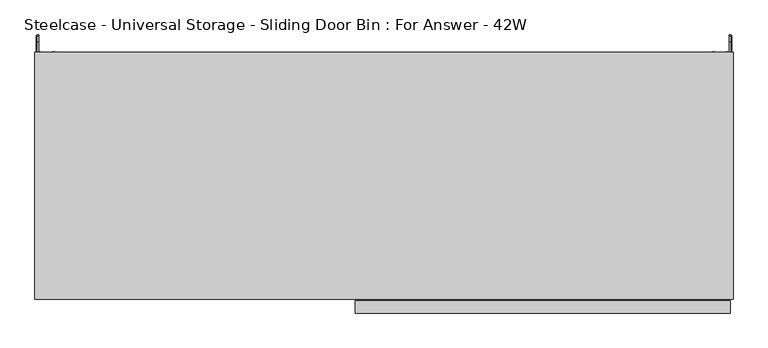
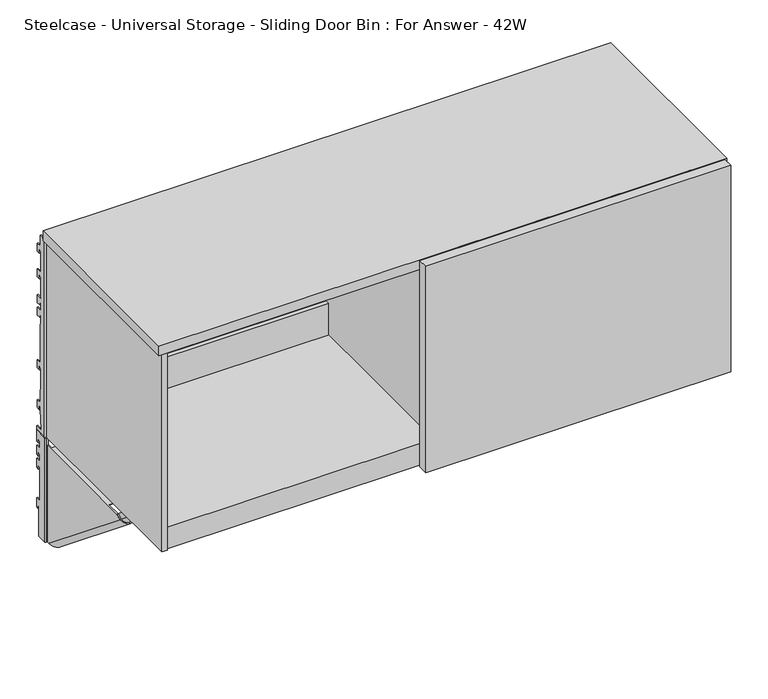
"""IFC4 building model written with IfcOpenShell, lengths in millimetres: furniture geometry, Steelcase - Universal Storage - Sliding Door Bin : For Answer - 42W."""

from ifc_helpers import new_model, si_unit, frame, origin, place, context, project, spatial, polyline, circle_curve, ellipse_curve, outline, extrude, faceted_brep, source, transform, mapped, element, save
from ifc_brep_helpers import plane_surface, cylinder_surface, revolved_surface, advanced_brep


def steelcase_universal_storage_sliding_door_bin_for_answer_42w_8bf37d0d(model_context):
    return source(origin(), model_context, "Body", "SolidModel", [
        advanced_brep(
        [(4.0894, 24.9864881, 1265.2629), (4.0894, 1.1327479, 1265.2629), (4.0894, 1.1203386, 1058.2783), (4.0894, 17.3410881, 1058.2783), (4.0894, 17.3410881, 1118.4254822), (4.0894, 21.4050888, 1118.4254822), (4.0894, 21.4050888, 1112.0755064), (4.0894, 24.9864881, 1112.0755064), (4.0894, 24.9864881, 1130.3381271), (4.0894, 14.7756879, 1130.3381271), (4.0894, 14.7756879, 1196.9115345), (4.0894, 18.8396885, 1196.9115345), (4.0894, 18.8396885, 1190.561486), (4.0894, 24.9864881, 1190.561486), (4.0894, 24.9864881, 1208.8241068), (4.0894, 14.7756879, 1208.8241068), (4.0894, 14.7756879, 1223.0735277), (4.0894, 18.8396885, 1223.0735277), (4.0894, 18.8396885, 1216.7234793), (4.0894, 24.9864881, 1216.7234793), (4.0894, 24.9864881, 1234.9861), (4.0894, 14.7756879, 1234.9861), (4.0894, 14.7756879, 1249.2355209), (4.0894, 18.8396885, 1249.2355209), (4.0894, 18.8396885, 1242.8854725), (4.0894, 24.9864881, 1242.8854725), (2.1844, 24.9864881, 1265.2629), (2.1844, 24.9864881, 1242.8854725), (2.1844, 18.8396885, 1242.8854725), (2.1844, 18.8396885, 1249.2355209), (2.1844, 14.7756879, 1249.2355209), (2.1844, 14.7756879, 1234.9861), (2.1844, 24.9864881, 1234.9861), (2.1844, 24.9864881, 1216.7234793), (2.1844, 18.8396885, 1216.7234793), (2.1844, 18.8396885, 1223.0735277), (2.1844, 14.7756879, 1223.0735277), (2.1844, 14.7756879, 1208.8241068), (2.1844, 24.9864881, 1208.8241068), (2.1844, 24.9864881, 1190.561486), (2.1844, 18.8396885, 1190.561486), (2.1844, 18.8396885, 1196.9115345), (2.1844, 14.7756879, 1196.9115345), (2.1844, 14.7756879, 1130.3381271), (2.1844, 24.9864881, 1130.3381271), (2.1844, 24.9864881, 1112.0755064), (2.1844, 21.4050888, 1112.0755064), (2.1844, 21.4050888, 1118.4254822), (2.1844, 17.3410881, 1118.4254822), (2.1844, 17.3410881, 1058.2783), (2.1844, -0.7757522, 1058.2783), (2.1844, -0.7757522, 1265.2629), (4.4891598, -3.080512, 1265.2629), (8.1026, -3.080512, 1265.2629), (8.1026, -1.7838863, 1265.2629), (7.4942256, -1.175512, 1265.2629), (6.3852506, -1.175512, 1265.2629), (6.3852506, -1.175512, 1058.2783), (7.4942256, -1.175512, 1058.2783), (8.1026, -1.7838863, 1058.2783), (8.1026, -3.080512, 1058.2783), (4.4891598, -3.080512, 1058.2783)],
        [
            (0, 1),
            (1, 2),
            (2, 3),
            (3, 4),
            (4, 5),
            (5, 6),
            (6, 7),
            (7, 8),
            (8, 9),
            (9, 10),
            (10, 11),
            (11, 12),
            (12, 13),
            (13, 14),
            (14, 15),
            (15, 16),
            (16, 17),
            (17, 18),
            (18, 19),
            (19, 20),
            (20, 21),
            (21, 22),
            (22, 23),
            (23, 24),
            (24, 25),
            (25, 0),
            (26, 27),
            (27, 28),
            (28, 29),
            (29, 30),
            (30, 31),
            (31, 32),
            (32, 33),
            (33, 34),
            (34, 35),
            (35, 36),
            (36, 37),
            (37, 38),
            (38, 39),
            (39, 40),
            (40, 41),
            (41, 42),
            (42, 43),
            (43, 44),
            (44, 45),
            (45, 46),
            (46, 47),
            (47, 48),
            (48, 49),
            (49, 50),
            (50, 51),
            (51, 26),
            (0, 26),
            (51, 52, circle_curve(frame((4.4891598, -0.7757522, 1265.2629), z_axis=(0.0, 0.0, 1.0), x_axis=(1.0, 0.0, 0.0)), 2.3047598)),
            (52, 53),
            (53, 54),
            (54, 55, circle_curve(frame((7.4942256, -1.7838863, 1265.2629), z_axis=(0.0, 0.0, 1.0), x_axis=(1.0, 0.0, 0.0)), 0.6083744)),
            (55, 56),
            (56, 1, circle_curve(frame((6.3852506, 1.1203386, 1265.2629), z_axis=(0.0, 0.0, -1.0), x_axis=(1.0, 0.0, 0.0)), 2.2958506)),
            (2, 57, circle_curve(frame((6.3852506, 1.1203386, 1058.2783), z_axis=(0.0, 0.0, 1.0), x_axis=(1.0, 0.0, 0.0)), 2.2958506)),
            (57, 58),
            (58, 59, circle_curve(frame((7.4942256, -1.7838863, 1058.2783), z_axis=(0.0, 0.0, -1.0), x_axis=(1.0, 0.0, 0.0)), 0.6083744)),
            (59, 60),
            (60, 61),
            (61, 50, circle_curve(frame((4.4891598, -0.7757522, 1058.2783), z_axis=(0.0, 0.0, -1.0), x_axis=(1.0, 0.0, 0.0)), 2.3047598)),
            (49, 3),
            (48, 4),
            (47, 5),
            (46, 6),
            (45, 7),
            (44, 8),
            (43, 9),
            (42, 10),
            (41, 11),
            (40, 12),
            (39, 13),
            (38, 14),
            (37, 15),
            (36, 16),
            (35, 17),
            (34, 18),
            (33, 19),
            (32, 20),
            (31, 21),
            (30, 22),
            (29, 23),
            (28, 24),
            (27, 25),
            (61, 52),
            (60, 53),
            (59, 54),
            (58, 55),
            (57, 56),
        ],
        [
            plane_surface(frame((4.0894, 1.241405, 1265.2629), z_axis=(1.0, 0.0, 0.0), x_axis=(0.0, -1.0, 0.0))),
            plane_surface(frame((2.1844, 1.241405, 1265.2629), z_axis=(-1.0, 0.0, 0.0), x_axis=(0.0, 1.0, 0.0))),
            plane_surface(frame((4.0894, 24.9864881, 1265.2629), z_axis=(0.0, 0.0, 1.0), x_axis=(-1.0, 0.0, 0.0))),
            plane_surface(frame((4.0894, 1.1327479, 1058.2783), z_axis=(0.0, 0.0, -1.0), x_axis=(-1.0, 0.0, 0.0))),
            plane_surface(frame((4.0894, 17.3410881, 1058.2783), z_axis=(0.0, 1.0, 0.0), x_axis=(-1.0, 0.0, 0.0))),
            plane_surface(frame((4.0894, 17.3410881, 1118.4254822), z_axis=(0.0, 0.0, -1.0), x_axis=(-1.0, 0.0, 0.0))),
            plane_surface(frame((4.0894, 21.4050888, 1118.4254822), z_axis=(0.0, -1.0, 0.0), x_axis=(-1.0, 0.0, 0.0))),
            plane_surface(frame((4.0894, 21.4050888, 1112.0755064), z_axis=(0.0, 0.0, -1.0), x_axis=(-1.0, 0.0, 0.0))),
            plane_surface(frame((4.0894, 24.9864881, 1112.0755064), z_axis=(0.0, 1.0, 0.0), x_axis=(-1.0, 0.0, 0.0))),
            plane_surface(frame((4.0894, 24.9864881, 1130.3381271), z_axis=(0.0, 0.0, 1.0), x_axis=(-1.0, 0.0, 0.0))),
            plane_surface(frame((4.0894, 14.7756879, 1130.3381271), z_axis=(0.0, 1.0, 0.0), x_axis=(-1.0, 0.0, 0.0))),
            plane_surface(frame((4.0894, 14.7756879, 1196.9115345), z_axis=(0.0, 0.0, -1.0), x_axis=(-1.0, 0.0, 0.0))),
            plane_surface(frame((4.0894, 18.8396885, 1196.9115345), z_axis=(0.0, -1.0, 0.0), x_axis=(-1.0, 0.0, 0.0))),
            plane_surface(frame((4.0894, 18.8396885, 1190.561486), z_axis=(0.0, 0.0, -1.0), x_axis=(-1.0, 0.0, 0.0))),
            plane_surface(frame((4.0894, 24.9864881, 1190.561486), z_axis=(0.0, 1.0, 0.0), x_axis=(-1.0, 0.0, 0.0))),
            plane_surface(frame((4.0894, 24.9864881, 1208.8241068), z_axis=(0.0, 0.0, 1.0), x_axis=(-1.0, 0.0, 0.0))),
            plane_surface(frame((4.0894, 14.7756879, 1208.8241068), z_axis=(0.0, 1.0, 0.0), x_axis=(-1.0, 0.0, 0.0))),
            plane_surface(frame((4.0894, 14.7756879, 1223.0735277), z_axis=(0.0, 0.0, -1.0), x_axis=(-1.0, 0.0, 0.0))),
            plane_surface(frame((4.0894, 18.8396885, 1223.0735277), z_axis=(0.0, -1.0, 0.0), x_axis=(-1.0, 0.0, 0.0))),
            plane_surface(frame((4.0894, 18.8396885, 1216.7234793), z_axis=(0.0, 0.0, -1.0), x_axis=(-1.0, 0.0, 0.0))),
            plane_surface(frame((4.0894, 24.9864881, 1216.7234793), z_axis=(0.0, 1.0, 0.0), x_axis=(-1.0, 0.0, 0.0))),
            plane_surface(frame((4.0894, 24.9864881, 1234.9861), z_axis=(0.0, 0.0, 1.0), x_axis=(-1.0, 0.0, 0.0))),
            plane_surface(frame((4.0894, 14.7756879, 1234.9861), z_axis=(0.0, 1.0, 0.0), x_axis=(-1.0, 0.0, 0.0))),
            plane_surface(frame((4.0894, 14.7756879, 1249.2355209), z_axis=(0.0, 0.0, -1.0), x_axis=(-1.0, 0.0, 0.0))),
            plane_surface(frame((4.0894, 18.8396885, 1249.2355209), z_axis=(0.0, -1.0, 0.0), x_axis=(-1.0, 0.0, 0.0))),
            plane_surface(frame((4.0894, 18.8396885, 1242.8854725), z_axis=(0.0, 0.0, -1.0), x_axis=(-1.0, 0.0, 0.0))),
            plane_surface(frame((4.0894, 24.9864881, 1242.8854725), z_axis=(0.0, 1.0, 0.0), x_axis=(-1.0, 0.0, 0.0))),
            cylinder_surface(frame((4.4891598, -0.7757522, 1058.2783), z_axis=(0.0, 0.0, 1.0), x_axis=(1.0, 0.0, 0.0)), 2.3047598),
            plane_surface(frame((4.4891598, -3.080512, 1265.2629), z_axis=(0.0, -1.0, 0.0), x_axis=(0.0, 0.0, -1.0))),
            plane_surface(frame((8.1026, -3.080512, 1265.2629), z_axis=(1.0, 0.0, 0.0), x_axis=(0.0, 0.0, -1.0))),
            cylinder_surface(frame((7.4942256, -1.7838863, 1058.2783), z_axis=(0.0, 0.0, 1.0), x_axis=(1.0, 0.0, 0.0)), 0.6083744),
            plane_surface(frame((7.4942256, -1.175512, 1265.2629), z_axis=(0.0, 1.0, 0.0), x_axis=(0.0, 0.0, -1.0))),
            revolved_surface(polyline([(8.6811012, 1.1203386, 1058.2783), (8.6811012, 1.1203386, 1265.2629)]), (6.3852506, 1.1203386, 1058.2783), (0.0, 0.0, -1.0)),
        ],
        [
            (0, [[1, 2, 3, 4, 5, 6, 7, 8, 9, 10, 11, 12, 13, 14, 15, 16, 17, 18, 19, 20, 21, 22, 23, 24, 25, 26]]),
            (1, [[27, 28, 29, 30, 31, 32, 33, 34, 35, 36, 37, 38, 39, 40, 41, 42, 43, 44, 45, 46, 47, 48, 49, 50, 51, 52]]),
            (2, [[-1, 53, -52, 54, 55, 56, 57, 58, 59]]),
            (3, [[-3, 60, 61, 62, 63, 64, 65, -50, 66]]),
            (4, [[-4, -66, -49, 67]]),
            (5, [[-5, -67, -48, 68]]),
            (6, [[-6, -68, -47, 69]]),
            (7, [[-7, -69, -46, 70]]),
            (8, [[-8, -70, -45, 71]]),
            (9, [[-9, -71, -44, 72]]),
            (10, [[-10, -72, -43, 73]]),
            (11, [[-11, -73, -42, 74]]),
            (12, [[-12, -74, -41, 75]]),
            (13, [[-13, -75, -40, 76]]),
            (14, [[-14, -76, -39, 77]]),
            (15, [[-15, -77, -38, 78]]),
            (16, [[-16, -78, -37, 79]]),
            (17, [[-17, -79, -36, 80]]),
            (18, [[-18, -80, -35, 81]]),
            (19, [[-19, -81, -34, 82]]),
            (20, [[-20, -82, -33, 83]]),
            (21, [[-21, -83, -32, 84]]),
            (22, [[-22, -84, -31, 85]]),
            (23, [[-23, -85, -30, 86]]),
            (24, [[-24, -86, -29, 87]]),
            (25, [[-25, -87, -28, 88]]),
            (26, [[-26, -88, -27, -53]]),
            (27, [[-54, -51, -65, 89]]),
            (28, [[-55, -89, -64, 90]]),
            (29, [[-56, -90, -63, 91]]),
            (30, [[-57, -91, -62, 92]]),
            (31, [[-58, -92, -61, 93]]),
            (32, [[-59, -93, -60, -2]]),
        ],
    ),
        advanced_brep(
        [(1062.7106, 24.9864881, 1265.2629), (1062.7106, 24.9864881, 1242.8854725), (1062.7106, 18.8396885, 1242.8854725), (1062.7106, 18.8396885, 1249.2355209), (1062.7106, 14.7756879, 1249.2355209), (1062.7106, 14.7756879, 1234.9861), (1062.7106, 24.9864881, 1234.9861), (1062.7106, 24.9864881, 1216.7234793), (1062.7106, 18.8396885, 1216.7234793), (1062.7106, 18.8396885, 1223.0735277), (1062.7106, 14.7756879, 1223.0735277), (1062.7106, 14.7756879, 1208.8241068), (1062.7106, 24.9864881, 1208.8241068), (1062.7106, 24.9864881, 1190.561486), (1062.7106, 18.8396885, 1190.561486), (1062.7106, 18.8396885, 1196.9115345), (1062.7106, 14.7756879, 1196.9115345), (1062.7106, 14.7756879, 1130.3381271), (1062.7106, 24.9864881, 1130.3381271), (1062.7106, 24.9864881, 1112.0755064), (1062.7106, 21.4050888, 1112.0755064), (1062.7106, 21.4050888, 1118.4254822), (1062.7106, 17.3410881, 1118.4254822), (1062.7106, 17.3410881, 1058.2783), (1062.7106, 1.1327479, 1058.2783), (1062.7106, 1.1203386, 1265.2629), (1064.6156, -0.7757522, 1265.2629), (1064.6156, -0.7757522, 1058.2783), (1064.6156, 17.3410881, 1058.2783), (1064.6156, 17.3410881, 1118.4254822), (1064.6156, 21.4050888, 1118.4254822), (1064.6156, 21.4050888, 1112.0755064), (1064.6156, 24.9864881, 1112.0755064), (1064.6156, 24.9864881, 1130.3381271), (1064.6156, 14.7756879, 1130.3381271), (1064.6156, 14.7756879, 1196.9115345), (1064.6156, 18.8396885, 1196.9115345), (1064.6156, 18.8396885, 1190.561486), (1064.6156, 24.9864881, 1190.561486), (1064.6156, 24.9864881, 1208.8241068), (1064.6156, 14.7756879, 1208.8241068), (1064.6156, 14.7756879, 1223.0735277), (1064.6156, 18.8396885, 1223.0735277), (1064.6156, 18.8396885, 1216.7234793), (1064.6156, 24.9864881, 1216.7234793), (1064.6156, 24.9864881, 1234.9861), (1064.6156, 14.7756879, 1234.9861), (1064.6156, 14.7756879, 1249.2355209), (1064.6156, 18.8396885, 1249.2355209), (1064.6156, 18.8396885, 1242.8854725), (1064.6156, 24.9864881, 1242.8854725), (1064.6156, 24.9864881, 1265.2629), (1062.3108402, -3.080512, 1058.2783), (1058.9006, -3.080512, 1058.2783), (1058.9006, -1.7838863, 1058.2783), (1059.5089744, -1.175512, 1058.2783), (1060.4147494, -1.175512, 1058.2783), (1060.4147494, -1.175512, 1265.2629), (1059.5089744, -1.175512, 1265.2629), (1058.9006, -1.7838863, 1265.2629), (1058.9006, -3.080512, 1265.2629), (1062.3108402, -3.080512, 1265.2629)],
        [
            (0, 1),
            (1, 2),
            (2, 3),
            (3, 4),
            (4, 5),
            (5, 6),
            (6, 7),
            (7, 8),
            (8, 9),
            (9, 10),
            (10, 11),
            (11, 12),
            (12, 13),
            (13, 14),
            (14, 15),
            (15, 16),
            (16, 17),
            (17, 18),
            (18, 19),
            (19, 20),
            (20, 21),
            (21, 22),
            (22, 23),
            (23, 24),
            (24, 25),
            (25, 0),
            (26, 27),
            (27, 28),
            (28, 29),
            (29, 30),
            (30, 31),
            (31, 32),
            (32, 33),
            (33, 34),
            (34, 35),
            (35, 36),
            (36, 37),
            (37, 38),
            (38, 39),
            (39, 40),
            (40, 41),
            (41, 42),
            (42, 43),
            (43, 44),
            (44, 45),
            (45, 46),
            (46, 47),
            (47, 48),
            (48, 49),
            (49, 50),
            (50, 51),
            (51, 26),
            (0, 51),
            (50, 1),
            (49, 2),
            (48, 3),
            (47, 4),
            (46, 5),
            (45, 6),
            (44, 7),
            (43, 8),
            (42, 9),
            (41, 10),
            (40, 11),
            (39, 12),
            (38, 13),
            (37, 14),
            (36, 15),
            (35, 16),
            (34, 17),
            (33, 18),
            (32, 19),
            (31, 20),
            (30, 21),
            (29, 22),
            (28, 23),
            (27, 52, circle_curve(frame((1062.3108402, -0.7757522, 1058.2783), z_axis=(0.0, 0.0, -1.0), x_axis=(0.0, 1.0, 0.0)), 2.3047598)),
            (52, 53),
            (53, 54),
            (54, 55, circle_curve(frame((1059.5089744, -1.7838863, 1058.2783), z_axis=(0.0, 0.0, -1.0), x_axis=(0.0, 1.0, 0.0)), 0.6083744)),
            (55, 56),
            (56, 24, circle_curve(frame((1060.4147494, 1.1203386, 1058.2783), z_axis=(0.0, 0.0, 1.0), x_axis=(0.0, 1.0, 0.0)), 2.2958506)),
            (25, 57, circle_curve(frame((1060.4147494, 1.1203386, 1265.2629), z_axis=(0.0, 0.0, -1.0), x_axis=(0.0, 1.0, 0.0)), 2.2958506)),
            (57, 58),
            (58, 59, circle_curve(frame((1059.5089744, -1.7838863, 1265.2629), z_axis=(0.0, 0.0, 1.0), x_axis=(0.0, 1.0, 0.0)), 0.6083744)),
            (59, 60),
            (60, 61),
            (61, 26, circle_curve(frame((1062.3108402, -0.7757522, 1265.2629), z_axis=(0.0, 0.0, 1.0), x_axis=(0.0, 1.0, 0.0)), 2.3047598)),
            (56, 57),
            (55, 58),
            (54, 59),
            (53, 60),
            (52, 61),
        ],
        [
            plane_surface(frame((1062.7106, 24.9864881, 1265.2629), z_axis=(-1.0, 0.0, 0.0), x_axis=(0.0, 0.0, -1.0))),
            plane_surface(frame((1064.6156, 24.9864881, 1265.2629), z_axis=(1.0, 0.0, 0.0), x_axis=(0.0, 0.0, 1.0))),
            plane_surface(frame((1062.7106, 24.9864881, 1265.2629), z_axis=(0.0, 1.0, 0.0), x_axis=(1.0, 0.0, 0.0))),
            plane_surface(frame((1062.7106, 24.9864881, 1242.8854725), z_axis=(0.0, 0.0, -1.0), x_axis=(1.0, 0.0, 0.0))),
            plane_surface(frame((1062.7106, 18.8396885, 1242.8854725), z_axis=(0.0, -1.0, 0.0), x_axis=(1.0, 0.0, 0.0))),
            plane_surface(frame((1062.7106, 18.8396885, 1249.2355209), z_axis=(0.0, 0.0, -1.0), x_axis=(1.0, 0.0, 0.0))),
            plane_surface(frame((1062.7106, 14.7756879, 1249.2355209), z_axis=(0.0, 1.0, 0.0), x_axis=(1.0, 0.0, 0.0))),
            plane_surface(frame((1062.7106, 14.7756879, 1234.9861), z_axis=(0.0, 0.0, 1.0), x_axis=(1.0, 0.0, 0.0))),
            plane_surface(frame((1062.7106, 24.9864881, 1234.9861), z_axis=(0.0, 1.0, 0.0), x_axis=(1.0, 0.0, 0.0))),
            plane_surface(frame((1062.7106, 24.9864881, 1216.7234793), z_axis=(0.0, 0.0, -1.0), x_axis=(1.0, 0.0, 0.0))),
            plane_surface(frame((1062.7106, 18.8396885, 1216.7234793), z_axis=(0.0, -1.0, 0.0), x_axis=(1.0, 0.0, 0.0))),
            plane_surface(frame((1062.7106, 18.8396885, 1223.0735277), z_axis=(0.0, 0.0, -1.0), x_axis=(1.0, 0.0, 0.0))),
            plane_surface(frame((1062.7106, 14.7756879, 1223.0735277), z_axis=(0.0, 1.0, 0.0), x_axis=(1.0, 0.0, 0.0))),
            plane_surface(frame((1062.7106, 14.7756879, 1208.8241068), z_axis=(0.0, 0.0, 1.0), x_axis=(1.0, 0.0, 0.0))),
            plane_surface(frame((1062.7106, 24.9864881, 1208.8241068), z_axis=(0.0, 1.0, 0.0), x_axis=(1.0, 0.0, 0.0))),
            plane_surface(frame((1062.7106, 24.9864881, 1190.561486), z_axis=(0.0, 0.0, -1.0), x_axis=(1.0, 0.0, 0.0))),
            plane_surface(frame((1062.7106, 18.8396885, 1190.561486), z_axis=(0.0, -1.0, 0.0), x_axis=(1.0, 0.0, 0.0))),
            plane_surface(frame((1062.7106, 18.8396885, 1196.9115345), z_axis=(0.0, 0.0, -1.0), x_axis=(1.0, 0.0, 0.0))),
            plane_surface(frame((1062.7106, 14.7756879, 1196.9115345), z_axis=(0.0, 1.0, 0.0), x_axis=(1.0, 0.0, 0.0))),
            plane_surface(frame((1062.7106, 14.7756879, 1130.3381271), z_axis=(0.0, 0.0, 1.0), x_axis=(1.0, 0.0, 0.0))),
            plane_surface(frame((1062.7106, 24.9864881, 1130.3381271), z_axis=(0.0, 1.0, 0.0), x_axis=(1.0, 0.0, 0.0))),
            plane_surface(frame((1062.7106, 24.9864881, 1112.0755064), z_axis=(0.0, 0.0, -1.0), x_axis=(1.0, 0.0, 0.0))),
            plane_surface(frame((1062.7106, 21.4050888, 1112.0755064), z_axis=(0.0, -1.0, 0.0), x_axis=(1.0, 0.0, 0.0))),
            plane_surface(frame((1062.7106, 21.4050888, 1118.4254822), z_axis=(0.0, 0.0, -1.0), x_axis=(1.0, 0.0, 0.0))),
            plane_surface(frame((1062.7106, 17.3410881, 1118.4254822), z_axis=(0.0, 1.0, 0.0), x_axis=(1.0, 0.0, 0.0))),
            plane_surface(frame((1062.7106, 17.3410881, 1058.2783), z_axis=(0.0, 0.0, -1.0), x_axis=(1.0, 0.0, 0.0))),
            plane_surface(frame((1062.7106, 1.1327479, 1265.2629), z_axis=(0.0, 0.0, 1.0), x_axis=(1.0, 0.0, 0.0))),
            revolved_surface(polyline([(1060.4147494, 3.4161892, 1058.2783), (1060.4147494, 3.4161892, 1265.2629)]), (1060.4147494, 1.1203386, 1058.2783), (0.0, 0.0, -1.0)),
            plane_surface(frame((1060.4147494, -1.175512, 1265.2629), z_axis=(3.8388970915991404e-11, 1.0, 0.0), x_axis=(0.0, 0.0, -1.0))),
            cylinder_surface(frame((1059.5089744, -1.7838863, 1058.2783), z_axis=(0.0, 0.0, 1.0), x_axis=(0.0, 1.0, 0.0)), 0.6083744),
            plane_surface(frame((1058.9006, -1.7838863, 1265.2629), z_axis=(-1.0, 0.0, 0.0), x_axis=(0.0, 0.0, -1.0))),
            plane_surface(frame((1058.9006, -3.080512, 1265.2629), z_axis=(6.7372088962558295e-12, -1.0, 0.0), x_axis=(0.0, 0.0, -1.0))),
            cylinder_surface(frame((1062.3108402, -0.7757522, 1058.2783), z_axis=(0.0, 0.0, 1.0), x_axis=(0.0, 1.0, 0.0)), 2.3047598),
        ],
        [
            (0, [[1, 2, 3, 4, 5, 6, 7, 8, 9, 10, 11, 12, 13, 14, 15, 16, 17, 18, 19, 20, 21, 22, 23, 24, 25, 26]]),
            (1, [[27, 28, 29, 30, 31, 32, 33, 34, 35, 36, 37, 38, 39, 40, 41, 42, 43, 44, 45, 46, 47, 48, 49, 50, 51, 52]]),
            (2, [[-1, 53, -51, 54]]),
            (3, [[-2, -54, -50, 55]]),
            (4, [[-3, -55, -49, 56]]),
            (5, [[-4, -56, -48, 57]]),
            (6, [[-5, -57, -47, 58]]),
            (7, [[-6, -58, -46, 59]]),
            (8, [[-7, -59, -45, 60]]),
            (9, [[-8, -60, -44, 61]]),
            (10, [[-9, -61, -43, 62]]),
            (11, [[-10, -62, -42, 63]]),
            (12, [[-11, -63, -41, 64]]),
            (13, [[-12, -64, -40, 65]]),
            (14, [[-13, -65, -39, 66]]),
            (15, [[-14, -66, -38, 67]]),
            (16, [[-15, -67, -37, 68]]),
            (17, [[-16, -68, -36, 69]]),
            (18, [[-17, -69, -35, 70]]),
            (19, [[-18, -70, -34, 71]]),
            (20, [[-19, -71, -33, 72]]),
            (21, [[-20, -72, -32, 73]]),
            (22, [[-21, -73, -31, 74]]),
            (23, [[-22, -74, -30, 75]]),
            (24, [[-23, -75, -29, 76]]),
            (25, [[-24, -76, -28, 77, 78, 79, 80, 81, 82]]),
            (26, [[-26, 83, 84, 85, 86, 87, 88, -52, -53]]),
            (27, [[-83, -25, -82, 89]]),
            (28, [[-84, -89, -81, 90]]),
            (29, [[-85, -90, -80, 91]]),
            (30, [[-86, -91, -79, 92]]),
            (31, [[-87, -92, -78, 93]]),
            (32, [[-88, -93, -77, -27]]),
        ],
    ),
        advanced_brep(
        [(1037.7424, -230.0833372, 1251.1405), (1037.7424, 1.1327479, 1063.9053738), (1035.6342, 1.1327479, 1063.9053738), (1035.6342, -230.0833372, 1251.1405), (1035.6342, 1.1327479, 1058.2783), (1035.6342, -7.7654502, 1058.2783), (1035.6342, -240.6555763, 1246.8690381), (1058.9006, -7.7654502, 1058.2783), (1058.9006, -240.6555763, 1246.8690381), (1058.9006, 1.1327479, 1058.2783), (1058.9006, 1.1327479, 1063.9053738), (1058.9006, -3.080512, 1067.317205), (1058.9006, -3.080512, 1251.1405), (1058.9006, -230.0833372, 1251.1405), (1056.7924009, 1.1327479, 1063.9053738), (1056.7924009, -3.080512, 1067.317205), (1056.7924009, -7.7654502, 1058.2783), (1056.7924009, -240.6555763, 1246.8690381), (1056.7924009, -230.0833372, 1251.1405), (1056.7924009, -200.311512, 1251.1405), (1056.7924009, -200.311512, 1250.3023163), (1056.7924009, -14.0787123, 1250.3023163), (1056.7924009, -14.0787123, 1251.1405), (1056.7924009, -3.080512, 1251.1405), (1056.7924009, 1.1327479, 1058.2783), (1037.7424, -7.7654502, 1058.2783), (1037.7424, -240.6555763, 1246.8690381), (1037.7424, 1.1327479, 1058.2783), (1027.8617978, -200.311512, 1251.1405), (1027.8617978, -200.311512, 1269.5555016), (1027.0236, -200.311512, 1269.5555016), (1027.0236, -200.311512, 1250.3023163), (1027.0236, -82.5825138, 1269.5555016), (1027.8617978, -82.5825138, 1269.5555016), (1027.8617978, -82.5825138, 1251.1405), (1027.0236, -82.5825138, 1251.1405), (1027.0236, -14.0787123, 1251.1405), (1027.0236, -14.0787123, 1250.3023163)],
        [
            (0, 1),
            (1, 2),
            (2, 3),
            (3, 0),
            (2, 4),
            (4, 5),
            (5, 6),
            (6, 3),
            (5, 7, ellipse_curve(frame((1047.2674, -7.7654502, 1058.2783), z_axis=(0.0, 0.0, 1.0), x_axis=(0.0, -1.0, 0.0)), 18.4853359, 11.6332)),
            (7, 8),
            (8, 6, ellipse_curve(frame((1047.2674, -240.6555763, 1246.8690381), z_axis=(0.0, 0.374606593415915, -0.9271838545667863), x_axis=(0.0, -0.9271838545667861, -0.3746065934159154)), 13.3008659, 11.6332)),
            (7, 9),
            (9, 10),
            (10, 11),
            (11, 12),
            (12, 13),
            (13, 8),
            (10, 14),
            (14, 15),
            (15, 11),
            (16, 17),
            (17, 18),
            (18, 19),
            (19, 20),
            (20, 21),
            (21, 22),
            (22, 23),
            (23, 15),
            (14, 24),
            (24, 16),
            (16, 25, ellipse_curve(frame((1047.2674005, -7.7654502, 1058.2783), z_axis=(0.0, 0.0, -1.0), x_axis=(0.0, 1.0, 0.0)), 15.135374, 9.5250005)),
            (25, 26),
            (26, 17, ellipse_curve(frame((1047.2674005, -240.6555763, 1246.8690381), z_axis=(0.0, -0.374606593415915, 0.9271838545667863), x_axis=(0.0, 0.9271838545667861, 0.3746065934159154)), 10.8904475, 9.5250005)),
            (0, 26),
            (25, 27),
            (27, 1),
            (13, 18),
            (24, 9),
            (4, 27),
            (28, 29),
            (29, 30),
            (30, 31),
            (31, 20),
            (19, 28),
            (32, 33),
            (33, 34),
            (34, 35),
            (35, 32),
            (35, 36),
            (36, 37),
            (37, 31),
            (30, 32),
            (28, 34),
            (33, 29),
            (36, 22),
            (21, 37),
            (12, 23),
        ],
        [
            plane_surface(frame((1037.7424, -241.2702093, 1260.199452), z_axis=(0.0, 0.6293204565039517, 0.7771459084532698), x_axis=(0.0, 0.7771459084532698, -0.6293204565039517))),
            plane_surface(frame((1035.6342, -241.2702093, 1260.199452), z_axis=(-1.0000000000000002, 0.0, 0.0), x_axis=(0.0, 0.7771459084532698, -0.6293204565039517))),
            cylinder_surface(frame((1047.2674, 5.728998, 1047.3507094), z_axis=(0.0, -0.7771459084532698, 0.6293204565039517), x_axis=(0.0, 0.6293204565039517, 0.7771459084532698)), 11.6332),
            plane_surface(frame((1058.9006, -247.5463438, 1252.4490726), z_axis=(1.0000000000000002, 0.0, 0.0), x_axis=(0.0, 0.7771459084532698, -0.6293204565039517))),
            plane_surface(frame((1058.9006, -241.2702093, 1260.199452), z_axis=(0.0, 0.6293204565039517, 0.7771459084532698), x_axis=(0.0, 0.7771459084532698, -0.6293204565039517))),
            plane_surface(frame((1056.7924009, -241.2702093, 1260.199452), z_axis=(-1.0000000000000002, 0.0, 0.0), x_axis=(0.0, 0.7771459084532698, -0.6293204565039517))),
            revolved_surface(polyline([(1047.2674005, 7.3699238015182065, 1058.2783000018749), (1047.2674005, -238.76446812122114, 1257.5940349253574)]), (1047.2674005, 5.728998, 1047.3507094), (0.0, 0.7771459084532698, -0.6293204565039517)),
            plane_surface(frame((1037.7424, -247.5463438, 1252.4490726), z_axis=(1.0000000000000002, 0.0, 0.0), x_axis=(0.0, 0.7771459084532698, -0.6293204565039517))),
            plane_surface(frame((1066.8, -257.2236519, 1240.1751011), z_axis=(0.0, -0.374606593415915, 0.9271838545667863), x_axis=(-1.0, 0.0, 0.0))),
            plane_surface(frame((1066.8, 1.1327479, 1058.2783), z_axis=(0.0, 0.0, -1.0), x_axis=(-1.0, 0.0, 0.0))),
            plane_surface(frame((1066.8, 1.1327479, 1070.9783), z_axis=(0.0, 1.0, 0.0), x_axis=(-1.0, 0.0, 0.0))),
            plane_surface(frame((1027.0236, -200.311512, 1269.5555016), z_axis=(0.0, -1.0, 0.0), x_axis=(0.0, 0.0, -1.0))),
            plane_surface(frame((1027.0236, -82.5825138, 1269.5555016), z_axis=(0.0, 1.0, 0.0), x_axis=(0.0, 0.0, 1.0))),
            plane_surface(frame((1027.0236, -200.311512, 1269.5555016), z_axis=(-1.0, 0.0, 0.0), x_axis=(0.0, 1.0, 0.0))),
            plane_surface(frame((1027.8617978, -200.311512, 1251.1405), z_axis=(1.0, 0.0, 0.0), x_axis=(0.0, 1.0, 0.0))),
            plane_surface(frame((1027.8617978, -200.311512, 1269.5555016), z_axis=(0.0, 0.0, 1.0), x_axis=(0.0, 1.0, 0.0))),
            plane_surface(frame((1027.0236, -14.0787123, 1251.1405), z_axis=(0.0, 1.0, 0.0), x_axis=(0.0, 0.0, 1.0))),
            plane_surface(frame((1027.0236, -200.311512, 1250.3023163), z_axis=(0.0, 0.0, -1.0), x_axis=(0.0, 1.0, 0.0))),
            plane_surface(frame((1058.9006, -200.311512, 1251.1405), z_axis=(0.0, 0.0, 1.0), x_axis=(0.0, 1.0, 0.0))),
            plane_surface(frame((1058.9006, -3.080512, 1067.317205), z_axis=(0.0, 1.0, 0.0), x_axis=(-1.0, 0.0, 0.0))),
        ],
        [
            (0, [[1, 2, 3, 4]]),
            (1, [[-3, 5, 6, 7, 8]]),
            (2, [[-7, 9, 10, 11]]),
            (3, [[-10, 12, 13, 14, 15, 16, 17]]),
            (4, [[18, 19, 20, -14]]),
            (5, [[21, 22, 23, 24, 25, 26, 27, 28, -19, 29, 30]]),
            (6, [[-21, 31, 32, 33]]),
            (7, [[-1, 34, -32, 35, 36]]),
            (8, [[-4, -8, -11, -17, 37, -22, -33, -34]]),
            (9, [[38, -12, -9, -6, 39, -35, -31, -30]]),
            (10, [[-38, -29, -18, -13]]),
            (10, [[-39, -5, -2, -36]]),
            (11, [[40, 41, 42, 43, -24, 44]]),
            (12, [[45, 46, 47, 48]]),
            (13, [[-48, 49, 50, 51, -42, 52]]),
            (14, [[-40, 53, -46, 54]]),
            (15, [[-41, -54, -45, -52]]),
            (16, [[-50, 55, -26, 56]]),
            (17, [[-51, -56, -25, -43]]),
            (18, [[57, -27, -55, -49, -47, -53, -44, -23, -37, -16]]),
            (19, [[-15, -20, -28, -57]]),
        ],
    ),
        advanced_brep(
        [(8.1026, -3.080512, 1067.317205), (8.1026, -3.080512, 1251.1405), (8.1026, -14.0787123, 1251.1405), (8.1026, -14.0787123, 1250.3023163), (8.1026, -200.311512, 1250.3023163), (8.1026, -200.311512, 1251.1405), (8.1026, -230.0833372, 1251.1405), (8.1026, -240.6555763, 1246.8690381), (8.1026, -7.7654502, 1058.2783), (8.1026, 1.1327479, 1058.2783), (8.1026, 1.1327479, 1063.9053738), (5.9944, -3.080512, 1251.1405), (5.9944, -3.080512, 1067.317205), (5.9944, 1.1327479, 1063.9053738), (5.9944, 1.1327479, 1058.2783), (5.9944, -7.7654502, 1058.2783), (5.9944, -240.6555763, 1246.8690381), (5.9944, -230.0833372, 1251.1405), (39.5732022, -200.311512, 1251.1405), (39.5732022, -82.5825138, 1251.1405), (40.4114, -82.5825138, 1251.1405), (40.4114, -14.0787123, 1251.1405), (29.2608, -7.7654502, 1058.2783), (29.2608, -240.6555763, 1246.8690381), (29.2608, 1.1327479, 1058.2783), (29.2608, 1.1327479, 1063.9053738), (29.2608, -230.0833372, 1251.1405), (27.1526009, 1.1327479, 1063.9053738), (27.1526009, -230.0833372, 1251.1405), (27.1526009, 1.1327479, 1058.2783), (27.1526009, -7.7654502, 1058.2783), (27.1526009, -240.6555763, 1246.8690381), (40.4114, -200.311512, 1250.3023163), (40.4114, -200.311512, 1269.5555016), (39.5732022, -200.311512, 1269.5555016), (40.4114, -14.0787123, 1250.3023163), (40.4114, -82.5825138, 1269.5555016), (39.5732022, -82.5825138, 1269.5555016)],
        [
            (0, 1),
            (1, 2),
            (2, 3),
            (3, 4),
            (4, 5),
            (5, 6),
            (6, 7),
            (7, 8),
            (8, 9),
            (9, 10),
            (10, 0),
            (11, 12),
            (12, 13),
            (13, 14),
            (14, 15),
            (15, 16),
            (16, 17),
            (17, 11),
            (17, 6),
            (5, 18),
            (18, 19),
            (19, 20),
            (20, 21),
            (21, 2),
            (1, 11),
            (0, 12),
            (10, 13),
            (15, 22, ellipse_curve(frame((17.6276, -7.7654502, 1058.2783), z_axis=(0.0, 0.0, 1.0), x_axis=(0.0, -1.0, 0.0)), 18.4853359, 11.6332)),
            (22, 23),
            (23, 16, ellipse_curve(frame((17.6276, -240.6555763, 1246.8690381), z_axis=(0.0, 0.374606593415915, -0.9271838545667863), x_axis=(0.0, -0.9271838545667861, -0.3746065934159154)), 13.3008659, 11.6332)),
            (22, 24),
            (24, 25),
            (25, 26),
            (26, 23),
            (25, 27),
            (27, 28),
            (28, 26),
            (27, 29),
            (29, 30),
            (30, 31),
            (31, 28),
            (7, 31, ellipse_curve(frame((17.6276005, -240.6555763, 1246.8690381), z_axis=(0.0, -0.374606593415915, 0.9271838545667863), x_axis=(0.0, 0.9271838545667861, 0.3746065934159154)), 10.8904475, 9.5250005)),
            (30, 8, ellipse_curve(frame((17.6276005, -7.7654502, 1058.2783), z_axis=(0.0, 0.0, -1.0), x_axis=(0.0, 1.0, 0.0)), 15.135374, 9.5250005)),
            (14, 9),
            (29, 24),
            (4, 32),
            (32, 33),
            (33, 34),
            (34, 18),
            (21, 35),
            (35, 3),
            (35, 32),
            (20, 36),
            (36, 33),
            (19, 37),
            (37, 36),
            (37, 34),
        ],
        [
            plane_surface(frame((8.1026, -230.0833372, 1251.1405), z_axis=(1.0, 0.0, 0.0), x_axis=(0.0, -1.0, 0.0))),
            plane_surface(frame((5.9944, -230.0833372, 1251.1405), z_axis=(-1.0, 0.0, 0.0), x_axis=(0.0, 1.0, 0.0))),
            plane_surface(frame((8.1026, -3.080512, 1251.1405), z_axis=(0.0, 0.0, 1.0), x_axis=(-1.0, 0.0, 0.0))),
            plane_surface(frame((8.1026, -3.080512, 1067.317205), z_axis=(0.0, 1.0, 0.0), x_axis=(-1.0, 0.0, 0.0))),
            plane_surface(frame((8.1026, -241.2702093, 1260.199452), z_axis=(0.0, 0.6293204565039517, 0.7771459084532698), x_axis=(0.0, 0.7771459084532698, -0.6293204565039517))),
            cylinder_surface(frame((17.6276, 5.728998, 1047.3507094), z_axis=(0.0, -0.7771459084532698, 0.6293204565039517), x_axis=(1.0, 0.0, 0.0)), 11.6332),
            plane_surface(frame((29.2608, -247.5463438, 1252.4490726), z_axis=(1.0000000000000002, 0.0, 0.0), x_axis=(0.0, 0.7771459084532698, -0.6293204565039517))),
            plane_surface(frame((29.2608, -241.2702093, 1260.199452), z_axis=(0.0, 0.6293204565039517, 0.7771459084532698), x_axis=(0.0, 0.7771459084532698, -0.6293204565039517))),
            plane_surface(frame((27.1526009, -241.2702093, 1260.199452), z_axis=(-1.0000000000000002, 0.0, 0.0), x_axis=(0.0, 0.7771459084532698, -0.6293204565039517))),
            revolved_surface(polyline([(27.152601, 1.375646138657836, 1050.8759848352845), (27.152601, -244.75874578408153, 1250.1917197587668)]), (17.6276005, 5.728998, 1047.3507094), (0.0, 0.7771459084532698, -0.6293204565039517)),
            plane_surface(frame((1066.8, -257.2236519, 1240.1751011), z_axis=(0.0, -0.374606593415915, 0.9271838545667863), x_axis=(-1.0, 0.0, 0.0))),
            plane_surface(frame((1066.8, 1.1327479, 1058.2783), z_axis=(0.0, 0.0, -1.0), x_axis=(-1.0, 0.0, 0.0))),
            plane_surface(frame((1066.8, 1.1327479, 1070.9783), z_axis=(0.0, 1.0, 0.0), x_axis=(-1.0, 0.0, 0.0))),
            plane_surface(frame((10.5986151, -200.311512, 1251.1405), z_axis=(0.0, -1.0, 0.0), x_axis=(-1.0, 0.0, 0.0))),
            plane_surface(frame((10.5986151, -14.0787123, 1251.1405), z_axis=(0.0, 1.0, 0.0), x_axis=(1.0, 0.0, 0.0))),
            plane_surface(frame((8.1026, -200.311512, 1250.3023163), z_axis=(0.0, 0.0, -1.0), x_axis=(0.0, 1.0, 0.0))),
            plane_surface(frame((40.4114, -200.311512, 1250.3023163), z_axis=(1.0, 0.0, 0.0), x_axis=(0.0, 1.0, 0.0))),
            plane_surface(frame((38.1509305, -82.5825138, 1269.5555016), z_axis=(0.0, 1.0, 0.0), x_axis=(1.0, 0.0, 0.0))),
            plane_surface(frame((40.4114, -200.311512, 1269.5555016), z_axis=(0.0, 0.0, 1.0), x_axis=(0.0, 1.0, 0.0))),
            plane_surface(frame((39.5732022, -200.311512, 1269.5555016), z_axis=(-1.0, 0.0, 0.0), x_axis=(0.0, 1.0, 0.0))),
        ],
        [
            (0, [[1, 2, 3, 4, 5, 6, 7, 8, 9, 10, 11]]),
            (1, [[12, 13, 14, 15, 16, 17, 18]]),
            (2, [[-18, 19, -6, 20, 21, 22, 23, 24, -2, 25]]),
            (3, [[-1, 26, -12, -25]]),
            (4, [[-26, -11, 27, -13]]),
            (5, [[-16, 28, 29, 30]]),
            (6, [[-29, 31, 32, 33, 34]]),
            (7, [[-33, 35, 36, 37]]),
            (8, [[-36, 38, 39, 40, 41]]),
            (9, [[-8, 42, -40, 43]]),
            (10, [[-7, -19, -17, -30, -34, -37, -41, -42]]),
            (11, [[44, -9, -43, -39, 45, -31, -28, -15]]),
            (12, [[-44, -14, -27, -10]]),
            (12, [[-45, -38, -35, -32]]),
            (13, [[46, 47, 48, 49, -20, -5]]),
            (14, [[50, 51, -3, -24]]),
            (15, [[-46, -4, -51, 52]]),
            (16, [[-47, -52, -50, -23, 53, 54]]),
            (17, [[-53, -22, 55, 56]]),
            (18, [[-48, -54, -56, 57]]),
            (19, [[-49, -57, -55, -21]]),
        ],
    ),
        faceted_brep([(1047.8516023, -9.7789998, 1657.6929), (1047.8516023, -9.7789998, 1669.5546326), (1047.8516023, -10.6172003, 1669.5546326), (1047.8516023, -10.6172003, 1656.854681), (1047.8516023, -0.8382, 1656.854681), (1047.8516023, -0.8382266, 1657.6929), (17.0434001, -9.7789998, 1657.6929), (17.0434001, -0.8382, 1657.6929), (17.0434001, -0.8382011, 1656.854681), (17.0434001, -10.6172003, 1656.854681), (17.0434001, -10.6172003, 1669.5546326), (17.0434001, -9.7789998, 1669.5546326), (1050.4837557, -30.9238769, 1657.6929), (1051.3187599, -30.850824, 1657.6929), (1048.6930117, -0.8382, 1657.6929), (1062.7106, -0.8382, 1657.6929), (1062.7106, 0.1784978, 1657.6929), (2.1844, 0.1784978, 1657.6929), (2.1844, -0.8382, 1657.6929), (16.2019988, -0.8382, 1657.6929), (13.5762335, -30.850824, 1657.6929), (14.4176356, -30.850824, 1657.6929), (1062.7106, 0.1784978, 1265.2629), (1062.7106, -0.8382, 1265.2629), (1048.6930117, -0.8382, 1265.2629), (1051.3187599, -30.850824, 1265.2629), (1050.4837557, -30.9238769, 1265.2629), (1047.8516, -0.8382, 1265.2629), (17.0434002, -0.8382, 1265.2629), (14.4176356, -30.850824, 1265.2629), (13.5762335, -30.850824, 1265.2629), (16.2019988, -0.8382, 1265.2629), (2.1844, -0.8382, 1265.2629), (2.1844, 0.1784978, 1265.2629)], [[[0, 1, 2, 3, 4, 5]], [[6, 7, 8, 9, 10, 11]], [[1, 0, 6, 11]], [[2, 1, 11, 10]], [[3, 2, 10, 9]], [[4, 3, 9, 8]], [[0, 5, 12, 13, 14, 15, 16, 17, 18, 19, 20, 21, 7, 6]], [[22, 23, 24, 25, 26, 27, 28, 29, 30, 31, 32, 33]], [[17, 16, 22, 33]], [[18, 17, 33, 32]], [[19, 18, 32, 31]], [[20, 19, 31, 30]], [[21, 20, 30, 29]], [[7, 21, 29, 28, 8]], [[28, 27, 4, 8]], [[12, 5, 4, 27, 26]], [[13, 12, 26, 25]], [[14, 13, 25, 24]], [[15, 14, 24, 23]], [[16, 15, 23, 22]]]),
        faceted_brep([(1031.3415999, -61.4680004, 1273.7210903), (1031.3415999, -61.4680004, 1266.1011), (1031.3415999, -60.6298021, 1266.1011), (1031.3415999, -60.6298021, 1273.7210903), (33.5534002, -61.4680004, 1273.7210903), (33.5534002, -60.6298021, 1273.7210903), (33.5534002, -60.6298021, 1266.1011), (33.5534002, -61.468, 1266.1011), (17.0434001, -61.4680004, 1266.1011), (17.0434001, -61.4680004, 1265.2629), (1047.8516023, -61.4680004, 1265.2629), (1047.8516023, -61.4680004, 1266.1011), (1047.8516023, -0.8382, 1265.2629), (1047.8516023, -0.8382, 1266.1011), (17.0434001, -0.8382, 1266.1011), (17.0434001, -0.8382, 1265.2629)], [[[0, 1, 2, 3]], [[4, 5, 6, 7]], [[1, 0, 4, 7, 8, 9, 10, 11]], [[3, 2, 6, 5]], [[0, 3, 5, 4]], [[11, 10, 12, 13]], [[8, 14, 15, 9]], [[12, 10, 9, 15]], [[13, 12, 15, 14]], [[11, 13, 14, 8, 7, 6, 2, 1]]]),
        extrude(outline(polyline([(489.099143, -379.476), (1062.3703, -379.476), (1062.3703, -398.526), (489.099143, -398.526), (489.099143, -379.476)])), frame((0.0, 0.0, 1266.8226746), z_axis=(0.0, 0.0, 1.0), x_axis=(1.0, 0.0, 0.0)), (0.0, 0.0, 1.0), 409.5773254),
        faceted_brep([(1066.8, -377.213238, 1676.4), (0.0, -377.213238, 1676.4), (0.0, -377.213238, 1657.35), (516.636, -377.213238, 1657.35), (516.636, -377.213238, 1310.7072052), (550.164, -377.213238, 1310.7072052), (550.164, -377.213238, 1657.35), (552.8674273, -377.213238, 1657.35), (1066.8, -377.213238, 1657.35), (1066.8, 0.0, 1676.4), (1066.8, 0.0, 1657.35), (552.8674273, 0.0, 1657.35), (0.0, 0.0, 1657.35), (0.0, 0.0, 1676.4), (550.164, -27.0763996, 1657.35), (516.636, -27.0763996, 1657.35), (550.164, -27.0763996, 1310.7072052), (516.636, -27.0763996, 1310.7072052)], [[[0, 1, 2, 3, 4, 5, 6, 7, 8]], [[9, 10, 11, 12, 13]], [[1, 0, 9, 13]], [[2, 1, 13, 12]], [[8, 7, 11, 10]], [[0, 8, 10, 9]], [[12, 11, 7, 6, 14, 15, 3, 2]], [[14, 16, 17, 15]], [[16, 14, 6, 5]], [[17, 16, 5, 4]], [[15, 17, 4, 3]]]),
        faceted_brep([(15.875, -377.213238, 1657.0959457), (5.5118, -377.213238, 1657.0959457), (5.5118, -377.213238, 1265.428), (15.875, -377.213238, 1265.428), (15.875, 0.0, 1657.0959457), (15.875, 0.0, 1265.428), (5.5118, 0.0, 1265.428), (5.5118, 0.0, 1657.0959457)], [[[0, 1, 2, 3]], [[4, 5, 6, 7]], [[1, 0, 4, 7]], [[2, 1, 7, 6]], [[3, 2, 6, 5]], [[0, 3, 5, 4]]]),
        faceted_brep([(1065.6568665, -377.213238, 1657.0959457), (1050.925, -377.213238, 1657.0959457), (1050.925, -377.213238, 1265.428), (1065.6568665, -377.213238, 1265.428), (1065.6568665, 0.0, 1657.0959457), (1065.6568665, 0.0, 1265.428), (1050.925, 0.0, 1265.428), (1050.925, 0.0, 1657.0959457)], [[[0, 1, 2, 3]], [[4, 5, 6, 7]], [[1, 0, 4, 7]], [[2, 1, 7, 6]], [[3, 2, 6, 5]], [[0, 3, 5, 4]]]),
        extrude(outline(polyline([(0.0, 1657.096), (15.428165, 1657.096), (15.428165, 1635.9725192), (24.6737648, 1635.9725192), (24.6737648, 1620.2499324), (17.7141651, 1620.2499324), (17.7141651, 1627.4034202), (15.428165, 1627.4034202), (13.3707653, 1623.8398995), (13.3707653, 1584.7332049), (24.4959651, 1584.7332049), (24.4959651, 1569.0106181), (17.7141651, 1569.0106181), (17.7141651, 1576.1734076), (15.428165, 1576.1734076), (13.3707653, 1572.6099624), (13.3707653, 1533.4938907), (24.6737648, 1533.4938907), (24.6737648, 1517.7713038), (17.5768, 1517.7713038), (17.5768, 1524.9340934), (15.4248855, 1524.9340934), (13.3349998, 1521.3219111), (13.3349998, 1508.4166423), (24.6737648, 1508.4166423), (24.6737648, 1492.6940555), (17.5768, 1492.6940555), (17.5768, 1499.856845), (15.4205129, 1499.856845), (13.3933344, 1496.3530466), (13.3933344, 1483.6530466), (15.428165, 1479.2893385), (15.428165, 1403.8551467), (24.6737648, 1403.8551467), (24.6737648, 1388.1325599), (17.7141651, 1388.1325599), (17.7141651, 1395.2982562), (15.428165, 1395.2982562), (13.3306079, 1391.6651808), (13.3306079, 1353.5651808), (15.428165, 1349.9321054), (15.428165, 1325.1000701), (24.6737648, 1325.1000701), (24.6737648, 1309.3774833), (17.7141651, 1309.3774833), (17.7141651, 1316.5328605), (15.428165, 1316.5328605), (15.428165, 1303.5355433), (13.2046809, 1299.684356), (13.2046809, 1282.9679719), (11.2879653, 1282.9679719), (11.2879653, 1271.9303504), (26.4009645, 1271.9303504), (26.4009645, 1265.428), (0.0, 1265.428), (0.0, 1657.096)])), frame((1061.2882, 0.0, 0.0), z_axis=(1.0, 0.0, 0.0), x_axis=(0.0, 1.0, 0.0)), (0.0, 0.0, 1.0), 1.905),
        extrude(outline(polyline([(0.0, 1657.096), (15.428165, 1657.096), (15.428165, 1635.9725192), (24.6737648, 1635.9725192), (24.6737648, 1620.2499324), (17.7141651, 1620.2499324), (17.7141651, 1627.4034202), (15.428165, 1627.4034202), (13.3707653, 1623.8398995), (13.3707653, 1584.7332049), (24.4959651, 1584.7332049), (24.4959651, 1569.0106181), (17.7141651, 1569.0106181), (17.7141651, 1576.1734076), (15.428165, 1576.1734076), (13.3707653, 1572.6099624), (13.3707653, 1533.4938907), (24.6737648, 1533.4938907), (24.6737648, 1517.7713038), (17.5768, 1517.7713038), (17.5768, 1524.9340934), (15.4248855, 1524.9340934), (13.3349998, 1521.3219111), (13.3349998, 1508.4166423), (24.6737648, 1508.4166423), (24.6737648, 1492.6940555), (17.5768, 1492.6940555), (17.5768, 1499.856845), (15.4205129, 1499.856845), (13.3933344, 1496.3530466), (13.3933344, 1483.6530466), (15.428165, 1479.2893385), (15.428165, 1403.8551467), (24.6737648, 1403.8551467), (24.6737648, 1388.1325599), (17.7141651, 1388.1325599), (17.7141651, 1395.2982562), (15.428165, 1395.2982562), (13.3306079, 1391.6651808), (13.3306079, 1353.5651808), (15.428165, 1349.9321054), (15.428165, 1325.1000701), (24.6737648, 1325.1000701), (24.6737648, 1309.3774833), (17.7141651, 1309.3774833), (17.7141651, 1316.5328605), (15.428165, 1316.5328605), (15.428165, 1303.5355433), (13.2046809, 1299.684356), (13.2046809, 1282.9679719), (11.2879653, 1282.9679719), (11.2879653, 1271.9303504), (26.4009645, 1271.9303504), (26.4009645, 1265.428), (0.0, 1265.428), (0.0, 1657.096)])), frame((3.6068, 0.0, 0.0), z_axis=(1.0, 0.0, 0.0), x_axis=(0.0, 1.0, 0.0)), (0.0, 0.0, 1.0), 1.905),
        extrude(outline(polyline([(-35.4584098, 1372.819257), (-27.0763996, 1372.819257), (-27.0763996, 1360.1191601), (-33.4264117, 1360.1191601), (-33.4264117, 1323.1622589), (-27.0763996, 1323.1622589), (-27.0763996, 1265.428), (-35.4584098, 1265.428), (-35.4584098, 1293.054213), (-46.1263996, 1293.054213), (-46.1263996, 1268.1875622), (-59.9694137, 1268.1875622), (-59.9694137, 1294.8575912), (-332.8542818, 1294.8575912), (-332.8542818, 1268.1875622), (-377.3042823, 1268.1875622), (-377.3042823, 1310.7072052), (-35.4584098, 1310.7072052), (-35.4584098, 1372.819257)])), frame((15.875, 0.0, 0.0), z_axis=(1.0, 0.0, 0.0), x_axis=(0.0, 1.0, 0.0)), (0.0, 0.0, 1.0), 1035.05),
    ])


if __name__ == "__main__":
    model = new_model("IFC4")
    model_context = context("Model", 3, world=origin())
    ifc_project = project(units=[si_unit("LENGTHUNIT", "METRE", prefix="MILLI")], contexts=[model_context])
    site = spatial("IfcSite", under=ifc_project)
    building = spatial("IfcBuilding", under=site)
    placement = place(None, origin())
    steelcase_universal_storage_sliding_door_bin_for_answer_42w_shape = steelcase_universal_storage_sliding_door_bin_for_answer_42w_8bf37d0d(model_context)
    element("IfcFurniture", 1, ObjectType="Steelcase - Universal Storage - Sliding Door Bin : For Answer - 42W", at=placement, inside=building, context=model_context, shape_type="MappedRepresentation", body=[
        mapped(steelcase_universal_storage_sliding_door_bin_for_answer_42w_shape, transform((0.0, 0.0, 0.0), x_axis=(1.0, 0.0, 0.0), y_axis=(0.0, 1.0, 0.0), z_axis=(0.0, 0.0, 1.0))),
    ])
    save(model, "model.ifc")
